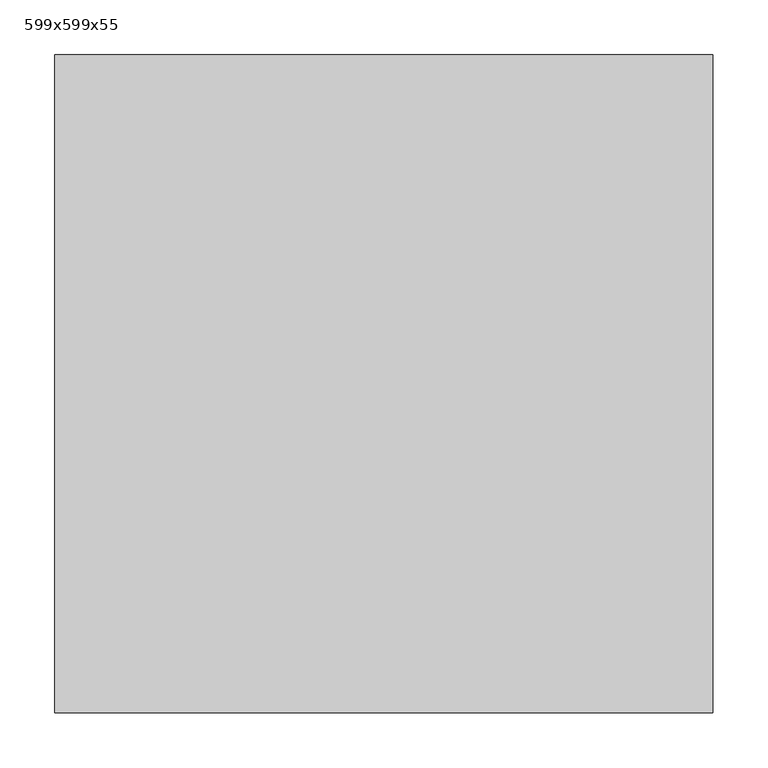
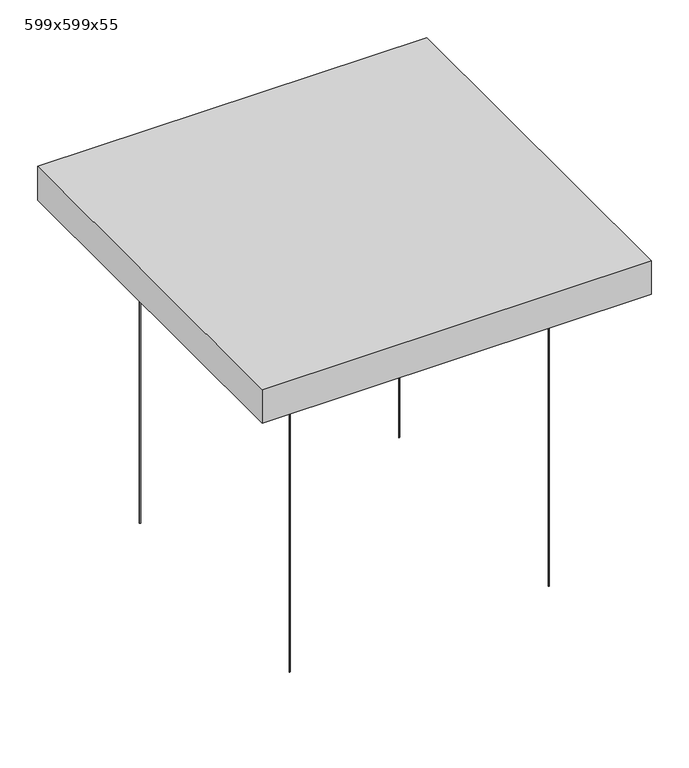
"""IFC4 building model written with IfcOpenShell, lengths in millimetres: proxy geometry, Texaa_Plafond respirant_Strato_Panneaux absorbant : 599x599x55."""

import ifcopenshell
import ifcopenshell.guid

model = None  # the IFC model being written
_history = None  # IfcOwnerHistory: only IFC2X3 demands one
_inside = {}  # id of a spatial element -> (the spatial element, [elements in it])
_under = {}  # id of a project, library or spatial element -> (it, [spatial elements below it])
_declared = {}  # id of a project -> (the project, [libraries it declares])
_typed = {}  # id of a type object -> (the type object, [elements of that type])
_made_of = {}  # id of a material, layer set ... -> (it, [elements and type objects made of it])


def new_model(schema):
    """Start an empty IFC model of exactly this schema.

    Asked for "IFC4X3", IfcOpenShell would pick the latest addendum, in which some entities
    have other attributes; the version numbers below select the first issue.
    IFC2X3 requires an IfcOwnerHistory on every rooted entity: one is made here for all.
    """
    global model, _history
    if schema == "IFC4X3":
        model = ifcopenshell.file(schema_version=(4, 3, 0, 0))
    else:
        model = ifcopenshell.file(schema=schema)
    _inside.clear()
    _under.clear()
    _declared.clear()
    _typed.clear()
    _made_of.clear()
    _history = None
    if model.schema == "IFC2X3":
        org = make("IfcOrganization", Name="unknown")
        user = make(
            "IfcPersonAndOrganization",
            ThePerson=make("IfcPerson", FamilyName="unknown"),
            TheOrganization=org,
        )
        app = make(
            "IfcApplication",
            ApplicationDeveloper=org,
            Version="unknown",
            ApplicationFullName="unknown",
            ApplicationIdentifier="unknown",
        )
        _history = make(
            "IfcOwnerHistory",
            OwningUser=user,
            OwningApplication=app,
            ChangeAction="ADDED",
            CreationDate=0,
        )
    return model


def make(cls, **values):
    """One entity of the class cls with the attributes given. An attribute that is None is left unset."""
    return model.create_entity(
        cls, **{name: value for name, value in values.items() if value is not None}
    )


def rooted(cls, **values):
    """An entity with a GlobalId (a new one), such as an element, a storey or a relation."""
    return make(cls, GlobalId=ifcopenshell.guid.new(), OwnerHistory=_history, **values)


def si_unit(unit_type, name, prefix=None):
    """IfcSIUnit, for example si_unit("LENGTHUNIT", "METRE", prefix="MILLI")."""
    return make("IfcSIUnit", UnitType=unit_type, Prefix=prefix, Name=name)


def assignment(units):
    """IfcUnitAssignment: the units of a project."""
    return None if units is None else make("IfcUnitAssignment", Units=units)


def point(xyz):
    """IfcCartesianPoint."""
    return None if xyz is None else make("IfcCartesianPoint", Coordinates=xyz)


def direction(xyz):
    """IfcDirection."""
    return None if xyz is None else make("IfcDirection", DirectionRatios=xyz)


def frame(location, z_axis=None, x_axis=None):
    """IfcAxis2Placement3D, a coordinate frame: its origin and axes. An axis left out is left unset."""
    return make(
        "IfcAxis2Placement3D",
        Location=point(location),
        Axis=direction(z_axis),
        RefDirection=direction(x_axis),
    )


def frame_2d(location, x_axis=None):
    """IfcAxis2Placement2D, a coordinate frame in the plane: its origin and x axis."""
    return make(
        "IfcAxis2Placement2D", Location=point(location), RefDirection=direction(x_axis)
    )


def origin():
    """The frame at (0, 0, 0) with its axes left unset."""
    return frame((0.0, 0.0, 0.0))


def origin_with_axes():
    """The frame at (0, 0, 0) with the z axis (0, 0, 1) and the x axis (1, 0, 0) written out."""
    return frame((0.0, 0.0, 0.0), z_axis=(0.0, 0.0, 1.0), x_axis=(1.0, 0.0, 0.0))


def place(relative_to, where):
    """IfcLocalPlacement: puts the frame where relative to a parent placement (None: the world)."""
    return make(
        "IfcLocalPlacement", PlacementRelTo=relative_to, RelativePlacement=where
    )


def context(
    kind, dimensions, precision=None, world=None, true_north=None, identifier=None
):
    """IfcGeometricRepresentationContext, for example the 3D "Model" context."""
    return make(
        "IfcGeometricRepresentationContext",
        ContextIdentifier=identifier,
        ContextType=kind,
        CoordinateSpaceDimension=dimensions,
        Precision=precision,
        WorldCoordinateSystem=world,
        TrueNorth=true_north,
    )


def project(units=None, contexts=None):
    """IfcProject with its units and contexts."""
    return rooted(
        "IfcProject",
        Name="project",
        RepresentationContexts=contexts,
        UnitsInContext=assignment(units),
    )


def spatial(cls, under=None, at=None, **own):
    """A site, building, storey or space (cls), placed at a placement, below another one or the project."""
    s = rooted(cls, ObjectPlacement=at, **own)
    if under is not None:
        _under.setdefault(under.id(), (under, []))[1].append(s)
    return s


def polyline(points):
    """IfcPolyline through the points."""
    return make("IfcPolyline", Points=[point(p) for p in points])


def circle_curve(where, radius):
    """IfcCircle in the frame where."""
    return make("IfcCircle", Position=where, Radius=radius)


def trimmed(basis, trim1, trim2, sense, master):
    """IfcTrimmedCurve: the piece of a basis curve between two trims."""
    return make(
        "IfcTrimmedCurve",
        BasisCurve=basis,
        Trim1=trim1,
        Trim2=trim2,
        SenseAgreement=sense,
        MasterRepresentation=master,
    )


def segment(curve, same_sense, transition):
    """IfcCompositeCurveSegment."""
    return make(
        "IfcCompositeCurveSegment",
        Transition=transition,
        SameSense=same_sense,
        ParentCurve=curve,
    )


def composite_curve(segments, self_intersect=None):
    """IfcCompositeCurve: segments joined end to end."""
    return make("IfcCompositeCurve", Segments=segments, SelfIntersect=self_intersect)


def outline(outer, holes=None, kind="AREA"):
    """IfcArbitraryClosedProfileDef: a profile drawn as a closed curve; with holes, ...WithVoids."""
    if holes is None:
        return make("IfcArbitraryClosedProfileDef", ProfileType=kind, OuterCurve=outer)
    return make(
        "IfcArbitraryProfileDefWithVoids",
        ProfileType=kind,
        OuterCurve=outer,
        InnerCurves=holes,
    )


def extrude(swept, where, along, depth):
    """IfcExtrudedAreaSolid: the profile swept, set in the frame where, extruded along a direction by depth."""
    return make(
        "IfcExtrudedAreaSolid",
        SweptArea=swept,
        Position=where,
        ExtrudedDirection=direction(along),
        Depth=depth,
    )


def faces_of(points, faces, orient=None, outer=None):
    """IfcFace entities. A face is a list of loops; a loop is a list of indices into points, from 0.

    orient and outer hold one flag for each loop. By default every Orientation is true, the
    first loop of a face is its IfcFaceOuterBound and the others are IfcFaceBound.
    """
    made = []
    for i, loops in enumerate(faces):
        bounds = []
        for j, loop in enumerate(loops):
            is_outer = j == 0 if outer is None else outer[i][j]
            bounds.append(
                make(
                    "IfcFaceOuterBound" if is_outer else "IfcFaceBound",
                    Bound=make("IfcPolyLoop", Polygon=[points[k] for k in loop]),
                    Orientation=True if orient is None else orient[i][j],
                )
            )
        made.append(make("IfcFace", Bounds=bounds))
    return made


def faceted_brep(points, faces, orient=None, outer=None, voids=None):
    """IfcFacetedBrep: a solid bounded by flat faces; with voids (closed shells), ...WithVoids."""
    shared = [point(p) for p in points]
    hull = make("IfcClosedShell", CfsFaces=faces_of(shared, faces, orient, outer))
    if voids is None:
        return make("IfcFacetedBrep", Outer=hull)
    return make(
        "IfcFacetedBrepWithVoids",
        Outer=hull,
        Voids=[
            make(cls, CfsFaces=faces_of(shared, fs, o, b)) for cls, fs, o, b in voids
        ],
    )


def shape(context_of_items, identifier, shape_type, items):
    """IfcShapeRepresentation: the items that make up one representation, for example the "Body"."""
    return make(
        "IfcShapeRepresentation",
        ContextOfItems=context_of_items,
        RepresentationIdentifier=identifier,
        RepresentationType=shape_type,
        Items=items,
    )


def source(mapping_origin, context_of_items, identifier, shape_type, items):
    """IfcRepresentationMap: a shape defined once, which mapped items show again and again."""
    return make(
        "IfcRepresentationMap",
        MappingOrigin=mapping_origin,
        MappedRepresentation=shape(context_of_items, identifier, shape_type, items),
    )


def transform(
    local_origin,
    x_axis=None,
    y_axis=None,
    z_axis=None,
    scale=None,
    scale2=None,
    scale3=None,
    uniform=True,
):
    """IfcCartesianTransformationOperator3D, or its non-uniform kind. x_axis, y_axis, z_axis: its Axis1, 2, 3."""
    if uniform:
        return make(
            "IfcCartesianTransformationOperator3D",
            Axis1=direction(x_axis),
            Axis2=direction(y_axis),
            LocalOrigin=point(local_origin),
            Scale=scale,
            Axis3=direction(z_axis),
        )
    return make(
        "IfcCartesianTransformationOperator3DnonUniform",
        Axis1=direction(x_axis),
        Axis2=direction(y_axis),
        LocalOrigin=point(local_origin),
        Scale=scale,
        Axis3=direction(z_axis),
        Scale2=scale2,
        Scale3=scale3,
    )


def mapped(mapping_source, mapping_target):
    """IfcMappedItem: shows the shape of a source again, moved by a transform."""
    return make(
        "IfcMappedItem", MappingSource=mapping_source, MappingTarget=mapping_target
    )


def made_of(thing, what):
    """Note that an element or type object is made of a material, layer set ...; save() writes the relation."""
    if what is not None:
        _made_of.setdefault(what.id(), (what, []))[1].append(thing)
    return thing


def element(
    cls,
    number,
    at=None,
    inside=None,
    cuts=None,
    type_object=None,
    material=None,
    context=None,
    identifier="Body",
    shape_type=None,
    held_by="IfcProductDefinitionShape",
    body=None,
    shapes=None,
    **own,
):
    """One element of the class cls, such as IfcWall. Its Tag is "e" and its number.

    at: its placement. inside: the storey or other place that contains it. cuts: it is an
    opening in that element (IfcRelVoidsElement). A single representation is given by context,
    identifier, shape_type and body (its items); several are given by shapes. held_by: the class
    of the entity that holds the representations. save() writes the other relations.
    """
    e = rooted(cls, Tag="e%d" % number, ObjectPlacement=at, **own)
    if body is not None:
        shapes = [shape(context, identifier, shape_type, body)]
    if shapes is not None:
        e.Representation = make(held_by, Representations=shapes)
    if inside is not None:
        _inside.setdefault(inside.id(), (inside, []))[1].append(e)
    if cuts is not None:
        rooted(
            "IfcRelVoidsElement", RelatingBuildingElement=cuts, RelatedOpeningElement=e
        )
    if type_object is not None:
        _typed.setdefault(type_object.id(), (type_object, []))[1].append(e)
    return made_of(e, material)


def aggregate(whole, parts):
    """IfcRelAggregates: a whole, such as a stair, and the parts it consists of."""
    return rooted("IfcRelAggregates", RelatingObject=whole, RelatedObjects=parts)


def save(model, path):
    """Write the relations noted so far, then the file.

    IfcRelAggregates (storeys below a building ...), IfcRelContainedInSpatialStructure (elements
    in a storey), IfcRelDefinesByType, IfcRelAssociatesMaterial and IfcRelDeclares: one each for
    every whole, place, type object, material and project.
    """
    for whole, parts in _under.values():
        aggregate(whole, parts)
    for where, things in _inside.values():
        rooted(
            "IfcRelContainedInSpatialStructure",
            RelatedElements=things,
            RelatingStructure=where,
        )
    for kind, things in _typed.values():
        rooted("IfcRelDefinesByType", RelatedObjects=things, RelatingType=kind)
    for what, things in _made_of.values():
        rooted("IfcRelAssociatesMaterial", RelatedObjects=things, RelatingMaterial=what)
    for by, libraries in _declared.values():
        rooted("IfcRelDeclares", RelatingContext=by, RelatedDefinitions=libraries)
    model.write(path)


def proxy_599x599x55_a6531e86(model_context):
    return source(origin(), model_context, "Body", "SolidModel", [
        extrude(outline(composite_curve([segment(trimmed(circle_curve(frame_2d((-199.5, -199.5)), 0.75), [point((-200.25, -199.5))], [point((-198.75, -199.5))], False, "CARTESIAN"), True, "CONTINUOUS"), segment(trimmed(circle_curve(frame_2d((-199.5, -199.5)), 0.75), [point((-198.75, -199.5))], [point((-200.25, -199.5))], False, "CARTESIAN"), True, "CONTINUOUS")], self_intersect=False)), origin_with_axes(), (0.0, 0.0, 1.0), 500.0),
        extrude(outline(composite_curve([segment(trimmed(circle_curve(frame_2d((199.5, -199.5)), 0.75), [point((198.75, -199.5))], [point((200.25, -199.5))], False, "CARTESIAN"), True, "CONTINUOUS"), segment(trimmed(circle_curve(frame_2d((199.5, -199.5)), 0.75), [point((200.25, -199.5))], [point((198.75, -199.5))], False, "CARTESIAN"), True, "CONTINUOUS")], self_intersect=False)), origin_with_axes(), (0.0, 0.0, 1.0), 500.0),
        extrude(outline(composite_curve([segment(trimmed(circle_curve(frame_2d((199.5, 199.5)), 0.75), [point((198.75, 199.5))], [point((200.25, 199.5))], False, "CARTESIAN"), True, "CONTINUOUS"), segment(trimmed(circle_curve(frame_2d((199.5, 199.5)), 0.75), [point((200.25, 199.5))], [point((198.75, 199.5))], False, "CARTESIAN"), True, "CONTINUOUS")], self_intersect=False)), origin_with_axes(), (0.0, 0.0, 1.0), 500.0),
        extrude(outline(composite_curve([segment(trimmed(circle_curve(frame_2d((-199.5, 199.5)), 0.75), [point((-200.25, 199.5))], [point((-198.75, 199.5))], False, "CARTESIAN"), True, "CONTINUOUS"), segment(trimmed(circle_curve(frame_2d((-199.5, 199.5)), 0.75), [point((-198.75, 199.5))], [point((-200.25, 199.5))], False, "CARTESIAN"), True, "CONTINUOUS")], self_intersect=False)), origin_with_axes(), (0.0, 0.0, 1.0), 500.0),
        extrude(outline(polyline([(-298.5, -298.5), (-298.5, 298.5), (298.5, 298.5), (298.5, -298.5), (-298.5, -298.5)])), frame((0.0, 0.0, 501.0), z_axis=(0.0, 0.0, 1.0), x_axis=(1.0, 0.0, 0.0)), (0.0, 0.0, 1.0), 53.0),
        faceted_brep([(-299.5, -299.5, 555.0), (299.5, -299.5, 555.0), (299.5, 299.5, 555.0), (-299.5, 299.5, 555.0), (-299.5, -299.5, 500.0), (-299.5, 299.5, 500.0), (299.5, 299.5, 500.0), (299.5, -299.5, 500.0), (-249.5, 249.5, 500.0), (-249.5, -249.5, 500.0), (249.5, -249.5, 500.0), (249.5, 249.5, 500.0), (249.5, 249.5, 501.0), (-249.5, 249.5, 501.0), (249.5, -249.5, 501.0), (-249.5, -249.5, 501.0), (-298.5, -298.5, 554.0), (-298.5, 298.5, 554.0), (298.5, 298.5, 554.0), (298.5, -298.5, 554.0), (-298.5, -298.5, 501.0), (298.5, -298.5, 501.0), (298.5, 298.5, 501.0), (-298.5, 298.5, 501.0)], [[[0, 1, 2, 3]], [[4, 5, 6, 7], [8, 9, 10, 11]], [[3, 5, 4, 0]], [[2, 6, 5, 3]], [[1, 7, 6, 2]], [[0, 4, 7, 1]], [[8, 11, 12, 13]], [[11, 10, 14, 12]], [[10, 9, 15, 14]], [[13, 15, 9, 8]], [[16, 17, 18, 19]], [[20, 21, 22, 23], [12, 14, 15, 13]], [[16, 20, 23, 17]], [[17, 23, 22, 18]], [[18, 22, 21, 19]], [[19, 21, 20, 16]]]),
    ])


if __name__ == "__main__":
    model = new_model("IFC4")
    model_context = context("Model", 3, world=origin())
    ifc_project = project(units=[si_unit("LENGTHUNIT", "METRE", prefix="MILLI")], contexts=[model_context])
    site = spatial("IfcSite", under=ifc_project)
    building = spatial("IfcBuilding", under=site)
    placement = place(None, origin())
    proxy_599x599x55_shape = proxy_599x599x55_a6531e86(model_context)
    element("IfcBuildingElementProxy", 1, Name="Texaa_Plafond respirant_Strato_Panneaux absorbant : 599x599x55", ObjectType="Texaa_Plafond respirant_Strato_Panneaux absorbant : 599x599x55", at=placement, inside=building, context=model_context, shape_type="MappedRepresentation", body=[
        mapped(proxy_599x599x55_shape, transform((0.0, 0.0, 0.0), x_axis=(1.0, 0.0, 0.0), y_axis=(0.0, 1.0, 0.0), z_axis=(0.0, 0.0, 1.0))),
    ])
    save(model, "model.ifc")
